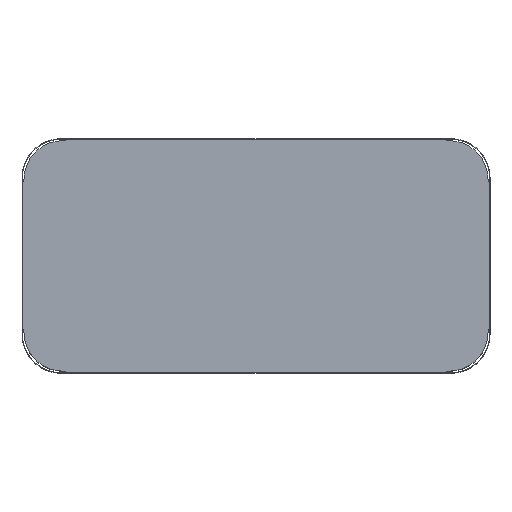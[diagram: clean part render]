
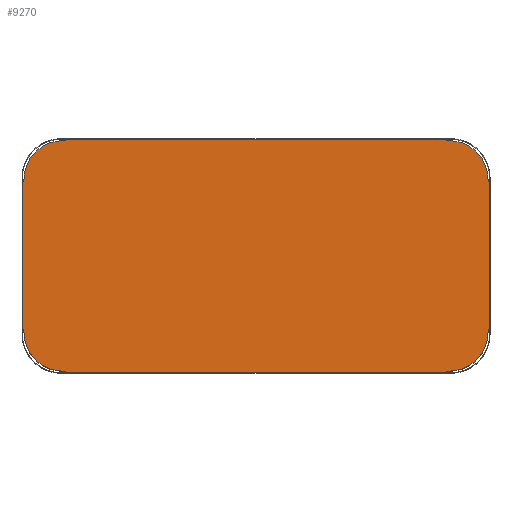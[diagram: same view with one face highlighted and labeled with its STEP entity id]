
A CAD part, top view. The second image highlights one B-rep face of the part: STEP entity #9270.
In plain terms, the highlighted planar face has unit normal (0, 0, 1).
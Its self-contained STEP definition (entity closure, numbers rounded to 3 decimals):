
#4640=CARTESIAN_POINT('',(917.343,-305.,435.6));
#4650=VERTEX_POINT('',#4640);
#4730=CARTESIAN_POINT('',(432.657,-305.,435.6));
#4740=VERTEX_POINT('',#4730);
#4770=CARTESIAN_POINT('',(675.,-305.,435.6));
#4780=DIRECTION('',(1.,0.,0.));
#4790=VECTOR('',#4780,1.);
#4800=LINE('',#4770,#4790);
#4810=EDGE_CURVE('',#4740,#4650,#4800,.T.);
#6570=CARTESIAN_POINT('',(432.657,-5.,435.6));
#6580=VERTEX_POINT('',#6570);
#6660=CARTESIAN_POINT('',(917.343,-5.,435.6));
#6670=VERTEX_POINT('',#6660);
#6700=CARTESIAN_POINT('',(675.,-5.,435.6));
#6710=DIRECTION('',(-1.,0.,0.));
#6720=VECTOR('',#6710,1.);
#6730=LINE('',#6700,#6720);
#6740=EDGE_CURVE('',#6670,#6580,#6730,.T.);
#7130=CARTESIAN_POINT('',(375.,-247.343,435.6));
#7140=VERTEX_POINT('',#7130);
#7220=CARTESIAN_POINT('',(375.,-62.657,435.6));
#7230=VERTEX_POINT('',#7220);
#7260=CARTESIAN_POINT('',(375.,-155.,435.6));
#7270=DIRECTION('',(0.,-1.,0.));
#7280=VECTOR('',#7270,1.);
#7290=LINE('',#7260,#7280);
#7300=EDGE_CURVE('',#7230,#7140,#7290,.T.);
#7350=CARTESIAN_POINT('',(692.176,24.75,435.6));
#7360=DIRECTION('',(0.,0.,1.));
#7370=DIRECTION('',(-0.5,0.866,
0.));
#7380=AXIS2_PLACEMENT_3D('',#7350,#7360,#7370);
#7390=PLANE('',#7380);
#7400=CARTESIAN_POINT('',(975.,-155.,435.6));
#7410=DIRECTION('',(0.,1.,0.));
#7420=VECTOR('',#7410,1.);
#7430=LINE('',#7400,#7420);
#7440=CARTESIAN_POINT('',(975.,-247.343,435.6));
#7450=VERTEX_POINT('',#7440);
#7460=CARTESIAN_POINT('',(975.,-62.657,435.6));
#7470=VERTEX_POINT('',#7460);
#7480=EDGE_CURVE('',#7450,#7470,#7430,.T.);
#7490=ORIENTED_EDGE('',*,*,#7480,.T.);
#7500=CARTESIAN_POINT('',(972.,-247.343,435.6));
#7510=DIRECTION('',(0.,0.,-1.));
#7520=DIRECTION('',(-1.,0.,0.));
#7530=AXIS2_PLACEMENT_3D('',#7500,#7510,#7520);
#7540=CIRCLE('',#7530,3.);
#7550=CARTESIAN_POINT('',(974.333,-249.229,435.6));
#7560=VERTEX_POINT('',#7550);
#7570=EDGE_CURVE('',#7450,#7560,#7540,.T.);
#7580=ORIENTED_EDGE('',*,*,#7570,.F.);
#7590=CARTESIAN_POINT('',(979.,-253.,435.6));
#7600=DIRECTION('',(0.,0.,1.));
#7610=DIRECTION('',(-1.,0.,0.));
#7620=AXIS2_PLACEMENT_3D('',#7590,#7600,#7610);
#7630=CIRCLE('',#7620,6.);
#7640=CARTESIAN_POINT('',(973.,-253.,435.6));
#7650=VERTEX_POINT('',#7640);
#7660=EDGE_CURVE('',#7560,#7650,#7630,.T.);
#7670=ORIENTED_EDGE('',*,*,#7660,.F.);
#7680=CARTESIAN_POINT('',(923.,-253.,435.6));
#7690=DIRECTION('',(0.,0.,-1.));
#7700=DIRECTION('',(-1.,0.,0.));
#7710=AXIS2_PLACEMENT_3D('',#7680,#7690,#7700);
#7720=CIRCLE('',#7710,50.);
#7730=CARTESIAN_POINT('',(923.,-303.,435.6));
#7740=VERTEX_POINT('',#7730);
#7750=EDGE_CURVE('',#7650,#7740,#7720,.T.);
#7760=ORIENTED_EDGE('',*,*,#7750,.F.);
#7770=CARTESIAN_POINT('',(923.,-309.,435.6));
#7780=DIRECTION('',(0.,0.,1.));
#7790=DIRECTION('',(-1.,0.,0.));
#7800=AXIS2_PLACEMENT_3D('',#7770,#7780,#7790);
#7810=CIRCLE('',#7800,6.);
#7820=CARTESIAN_POINT('',(919.229,-304.333,435.6));
#7830=VERTEX_POINT('',#7820);
#7840=EDGE_CURVE('',#7740,#7830,#7810,.T.);
#7850=ORIENTED_EDGE('',*,*,#7840,.F.);
#7860=CARTESIAN_POINT('',(917.343,-302.,435.6));
#7870=DIRECTION('',(0.,0.,-1.));
#7880=DIRECTION('',(-1.,0.,0.));
#7890=AXIS2_PLACEMENT_3D('',#7860,#7870,#7880);
#7900=CIRCLE('',#7890,3.);
#7910=EDGE_CURVE('',#7830,#4650,#7900,.T.);
#7920=ORIENTED_EDGE('',*,*,#7910,.F.);
#7930=ORIENTED_EDGE('',*,*,#4810,.T.);
#7940=CARTESIAN_POINT('',(432.657,-302.,435.6));
#7950=DIRECTION('',(0.,0.,-1.));
#7960=DIRECTION('',(-1.,0.,0.));
#7970=AXIS2_PLACEMENT_3D('',#7940,#7950,#7960);
#7980=CIRCLE('',#7970,3.);
#7990=CARTESIAN_POINT('',(430.771,-304.333,435.6));
#8000=VERTEX_POINT('',#7990);
#8010=EDGE_CURVE('',#4740,#8000,#7980,.T.);
#8020=ORIENTED_EDGE('',*,*,#8010,.F.);
#8030=CARTESIAN_POINT('',(427.,-309.,435.6));
#8040=DIRECTION('',(0.,0.,1.));
#8050=DIRECTION('',(-1.,0.,0.));
#8060=AXIS2_PLACEMENT_3D('',#8030,#8040,#8050);
#8070=CIRCLE('',#8060,6.);
#8080=CARTESIAN_POINT('',(427.,-303.,435.6));
#8090=VERTEX_POINT('',#8080);
#8100=EDGE_CURVE('',#8000,#8090,#8070,.T.);
#8110=ORIENTED_EDGE('',*,*,#8100,.F.);
#8120=CARTESIAN_POINT('',(427.,-253.,435.6));
#8130=DIRECTION('',(0.,0.,-1.));
#8140=DIRECTION('',(-1.,0.,0.));
#8150=AXIS2_PLACEMENT_3D('',#8120,#8130,#8140);
#8160=CIRCLE('',#8150,50.);
#8170=CARTESIAN_POINT('',(377.,-253.,435.6));
#8180=VERTEX_POINT('',#8170);
#8190=EDGE_CURVE('',#8090,#8180,#8160,.T.);
#8200=ORIENTED_EDGE('',*,*,#8190,.F.);
#8210=CARTESIAN_POINT('',(371.,-253.,435.6));
#8220=DIRECTION('',(0.,0.,1.));
#8230=DIRECTION('',(-1.,0.,0.));
#8240=AXIS2_PLACEMENT_3D('',#8210,#8220,#8230);
#8250=CIRCLE('',#8240,6.);
#8260=CARTESIAN_POINT('',(375.667,-249.229,435.6));
#8270=VERTEX_POINT('',#8260);
#8280=EDGE_CURVE('',#8180,#8270,#8250,.T.);
#8290=ORIENTED_EDGE('',*,*,#8280,.F.);
#8300=CARTESIAN_POINT('',(378.,-247.343,435.6));
#8310=DIRECTION('',(0.,0.,-1.));
#8320=DIRECTION('',(-1.,0.,0.));
#8330=AXIS2_PLACEMENT_3D('',#8300,#8310,#8320);
#8340=CIRCLE('',#8330,3.);
#8350=EDGE_CURVE('',#8270,#7140,#8340,.T.);
#8360=ORIENTED_EDGE('',*,*,#8350,.F.);
#8370=ORIENTED_EDGE('',*,*,#7300,.T.);
#8380=CARTESIAN_POINT('',(378.,-62.657,435.6));
#8390=DIRECTION('',(0.,0.,-1.));
#8400=DIRECTION('',(-1.,0.,0.));
#8410=AXIS2_PLACEMENT_3D('',#8380,#8390,#8400);
#8420=CIRCLE('',#8410,3.);
#8430=CARTESIAN_POINT('',(375.667,-60.771,435.6));
#8440=VERTEX_POINT('',#8430);
#8450=EDGE_CURVE('',#7230,#8440,#8420,.T.);
#8460=ORIENTED_EDGE('',*,*,#8450,.F.);
#8470=CARTESIAN_POINT('',(371.,-57.,435.6));
#8480=DIRECTION('',(0.,0.,1.));
#8490=DIRECTION('',(-1.,0.,0.));
#8500=AXIS2_PLACEMENT_3D('',#8470,#8480,#8490);
#8510=CIRCLE('',#8500,6.);
#8520=CARTESIAN_POINT('',(377.,-57.,435.6));
#8530=VERTEX_POINT('',#8520);
#8540=EDGE_CURVE('',#8440,#8530,#8510,.T.);
#8550=ORIENTED_EDGE('',*,*,#8540,.F.);
#8560=CARTESIAN_POINT('',(427.,-57.,435.6));
#8570=DIRECTION('',(0.,0.,-1.));
#8580=DIRECTION('',(-1.,0.,0.));
#8590=AXIS2_PLACEMENT_3D('',#8560,#8570,#8580);
#8600=CIRCLE('',#8590,50.);
#8610=CARTESIAN_POINT('',(427.,-7.,435.6));
#8620=VERTEX_POINT('',#8610);
#8630=EDGE_CURVE('',#8530,#8620,#8600,.T.);
#8640=ORIENTED_EDGE('',*,*,#8630,.F.);
#8650=CARTESIAN_POINT('',(427.,-1.,435.6));
#8660=DIRECTION('',(0.,0.,1.));
#8670=DIRECTION('',(-1.,0.,0.));
#8680=AXIS2_PLACEMENT_3D('',#8650,#8660,#8670);
#8690=CIRCLE('',#8680,6.);
#8700=CARTESIAN_POINT('',(430.771,-5.667,435.6));
#8710=VERTEX_POINT('',#8700);
#8720=EDGE_CURVE('',#8620,#8710,#8690,.T.);
#8730=ORIENTED_EDGE('',*,*,#8720,.F.);
#8740=CARTESIAN_POINT('',(432.657,-8.,435.6));
#8750=DIRECTION('',(0.,0.,-1.));
#8760=DIRECTION('',(-1.,0.,0.));
#8770=AXIS2_PLACEMENT_3D('',#8740,#8750,#8760);
#8780=CIRCLE('',#8770,3.);
#8790=EDGE_CURVE('',#8710,#6580,#8780,.T.);
#8800=ORIENTED_EDGE('',*,*,#8790,.F.);
#8810=ORIENTED_EDGE('',*,*,#6740,.T.);
#8820=CARTESIAN_POINT('',(917.343,-8.,435.6));
#8830=DIRECTION('',(0.,0.,-1.));
#8840=DIRECTION('',(-1.,0.,0.));
#8850=AXIS2_PLACEMENT_3D('',#8820,#8830,#8840);
#8860=CIRCLE('',#8850,3.);
#8870=CARTESIAN_POINT('',(919.229,-5.667,435.6));
#8880=VERTEX_POINT('',#8870);
#8890=EDGE_CURVE('',#6670,#8880,#8860,.T.);
#8900=ORIENTED_EDGE('',*,*,#8890,.F.);
#8910=CARTESIAN_POINT('',(923.,-1.,435.6));
#8920=DIRECTION('',(0.,0.,1.));
#8930=DIRECTION('',(-1.,0.,0.));
#8940=AXIS2_PLACEMENT_3D('',#8910,#8920,#8930);
#8950=CIRCLE('',#8940,6.);
#8960=CARTESIAN_POINT('',(923.,-7.,435.6));
#8970=VERTEX_POINT('',#8960);
#8980=EDGE_CURVE('',#8880,#8970,#8950,.T.);
#8990=ORIENTED_EDGE('',*,*,#8980,.F.);
#9000=CARTESIAN_POINT('',(923.,-57.,435.6));
#9010=DIRECTION('',(0.,0.,-1.));
#9020=DIRECTION('',(-1.,0.,0.));
#9030=AXIS2_PLACEMENT_3D('',#9000,#9010,#9020);
#9040=CIRCLE('',#9030,50.);
#9050=CARTESIAN_POINT('',(973.,-57.,435.6));
#9060=VERTEX_POINT('',#9050);
#9070=EDGE_CURVE('',#8970,#9060,#9040,.T.);
#9080=ORIENTED_EDGE('',*,*,#9070,.F.);
#9090=CARTESIAN_POINT('',(979.,-57.,435.6));
#9100=DIRECTION('',(0.,0.,1.));
#9110=DIRECTION('',(-1.,0.,0.));
#9120=AXIS2_PLACEMENT_3D('',#9090,#9100,#9110);
#9130=CIRCLE('',#9120,6.);
#9140=CARTESIAN_POINT('',(974.333,-60.771,435.6));
#9150=VERTEX_POINT('',#9140);
#9160=EDGE_CURVE('',#9060,#9150,#9130,.T.);
#9170=ORIENTED_EDGE('',*,*,#9160,.F.);
#9180=CARTESIAN_POINT('',(972.,-62.657,435.6));
#9190=DIRECTION('',(0.,0.,-1.));
#9200=DIRECTION('',(-1.,0.,0.));
#9210=AXIS2_PLACEMENT_3D('',#9180,#9190,#9200);
#9220=CIRCLE('',#9210,3.);
#9230=EDGE_CURVE('',#9150,#7470,#9220,.T.);
#9240=ORIENTED_EDGE('',*,*,#9230,.F.);
#9250=EDGE_LOOP('',(#9240,#9170,#9080,#8990,#8900,#8810,#8800,#8730,
#8640,#8550,#8460,#8370,#8360,#8290,#8200,#8110,#8020,#7930,#7920,#7850,
#7760,#7670,#7580,#7490));
#9260=FACE_OUTER_BOUND('',#9250,.T.);
#9270=ADVANCED_FACE('',(#9260),#7390,.T.);
